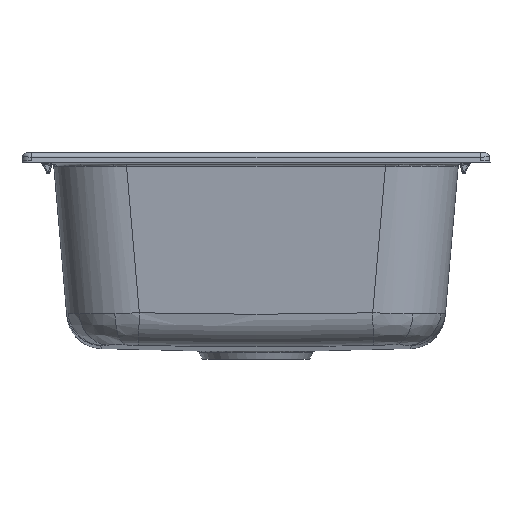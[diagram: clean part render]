
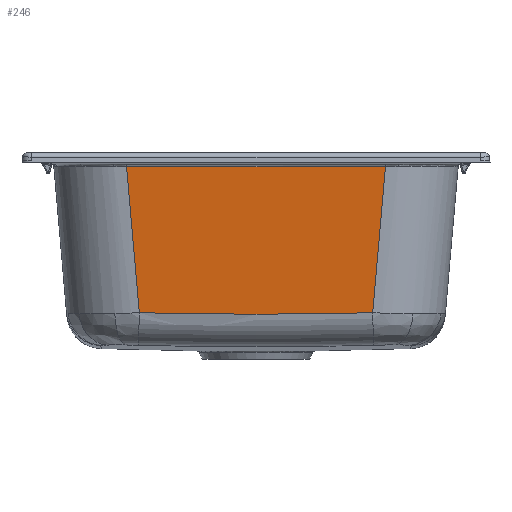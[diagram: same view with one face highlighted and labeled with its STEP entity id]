
A CAD part, left-side view. The second image highlights one B-rep face of the part: STEP entity #246.
In plain terms, the highlighted planar face has unit normal (-0.996, 0, -0.087).
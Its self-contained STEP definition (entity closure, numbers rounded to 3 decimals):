
#246=ADVANCED_FACE('',(#969),#970,.T.);
#969=FACE_OUTER_BOUND('',#4679,.T.);
#970=PLANE('',#4680);
#4679=EDGE_LOOP('',(#12196,#12197,#12198,#12199,#12200));
#4680=AXIS2_PLACEMENT_3D('',#12201,#12202,#12203);
#12196=ORIENTED_EDGE('',*,*,#15010,.F.);
#12197=ORIENTED_EDGE('',*,*,#15275,.T.);
#12198=ORIENTED_EDGE('',*,*,#15277,.F.);
#12199=ORIENTED_EDGE('',*,*,#15278,.F.);
#12200=ORIENTED_EDGE('',*,*,#15279,.F.);
#12201=CARTESIAN_POINT('',(-396.92,214.951,-0.697));
#12202=DIRECTION('',(-0.996,0.0,-0.087));
#12203=DIRECTION('',(-0.087,0.0,0.996));
#15010=EDGE_CURVE('',#16738,#16740,#16741,.T.);
#15275=EDGE_CURVE('',#16738,#17186,#17191,.T.);
#15277=EDGE_CURVE('',#17193,#17186,#17194,.T.);
#15278=EDGE_CURVE('',#17195,#17193,#17196,.T.);
#15279=EDGE_CURVE('',#16740,#17195,#17197,.T.);
#16738=VERTEX_POINT('',#21386);
#16740=VERTEX_POINT('',#21391);
#16741=LINE('',#21392,#21393);
#17186=VERTEX_POINT('',#23554);
#17191=LINE('',#23580,#23581);
#17193=VERTEX_POINT('',#23583);
#17194=LINE('',#23584,#23585);
#17195=VERTEX_POINT('',#23586);
#17196=B_SPLINE_CURVE_WITH_KNOTS('',5,(#23587,#23588,#23589,#23590,#23591,#23592),.UNSPECIFIED.,.F.,.F.,(6,6),(0.0,176.325),.UNSPECIFIED.);
#17197=B_SPLINE_CURVE_WITH_KNOTS('',5,(#23593,#23594,#23595,#23596,#23597,#23598),.UNSPECIFIED.,.F.,.F.,(6,6),(0.0,176.325),.UNSPECIFIED.);
#21386=CARTESIAN_POINT('',(-396.043,-132.34,-10.727));
#21391=CARTESIAN_POINT('',(-382.372,-118.669,-166.982));
#21392=CARTESIAN_POINT('',(-397.446,-133.743,5.312));
#21393=VECTOR('',#30265,1.0);
#23554=CARTESIAN_POINT('',(-396.043,144.34,-10.727));
#23580=CARTESIAN_POINT('',(-396.043,235.301,-10.727));
#23581=VECTOR('',#30412,1.0);
#23583=CARTESIAN_POINT('',(-382.372,130.669,-166.982));
#23584=CARTESIAN_POINT('',(-389.208,137.504,-88.854));
#23585=VECTOR('',#30416,1.0);
#23586=CARTESIAN_POINT('',(-382.235,6.0,-168.553));
#23587=CARTESIAN_POINT('',(-382.235,6.,-168.553));
#23588=CARTESIAN_POINT('',(-382.235,30.936,-168.553));
#23589=CARTESIAN_POINT('',(-382.249,55.872,-168.396));
#23590=CARTESIAN_POINT('',(-382.276,80.809,-168.081));
#23591=CARTESIAN_POINT('',(-382.317,105.741,-167.61));
#23592=CARTESIAN_POINT('',(-382.372,130.669,-166.982));
#23593=CARTESIAN_POINT('',(-382.372,-118.669,-166.982));
#23594=CARTESIAN_POINT('',(-382.317,-93.741,-167.61));
#23595=CARTESIAN_POINT('',(-382.276,-68.809,-168.081));
#23596=CARTESIAN_POINT('',(-382.249,-43.872,-168.396));
#23597=CARTESIAN_POINT('',(-382.235,-18.936,-168.553));
#23598=CARTESIAN_POINT('',(-382.235,6.,-168.553));
#30265=DIRECTION('',(0.087,0.087,-0.992));
#30412=DIRECTION('',(0.0,1.0,0.0));
#30416=DIRECTION('',(-0.087,0.087,0.992));
